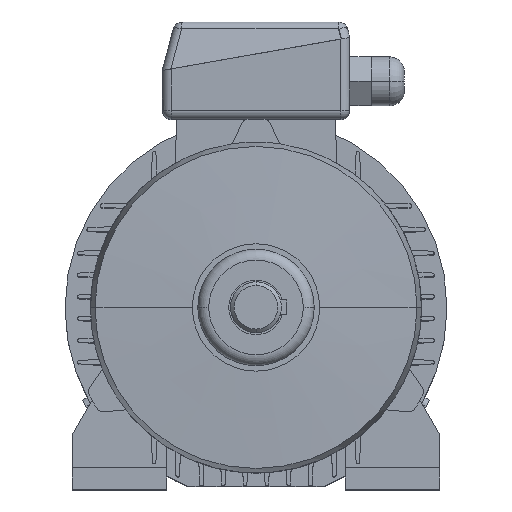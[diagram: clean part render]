
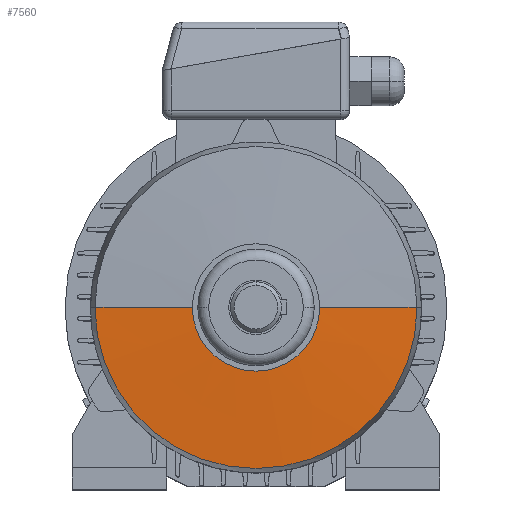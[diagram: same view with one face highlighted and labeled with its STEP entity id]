
A CAD part, top view. The second image highlights one B-rep face of the part: STEP entity #7560.
In plain terms, the highlighted conical face has half-angle 87.326 degrees and reference radius 35 mm.
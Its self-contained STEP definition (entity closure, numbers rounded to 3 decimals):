
#16479 = CARTESIAN_POINT ( 'NONE',  ( -88.531, 0., 26. ) ) ;
#290 = EDGE_CURVE ( 'NONE', #11727, #18044, #21127, .T. ) ;
#17657 = VERTEX_POINT ( 'NONE', #16194 ) ;
#17669 = LINE ( 'NONE', #17670, #17671 ) ;
#17670 = CARTESIAN_POINT ( 'NONE',  ( -35., 0., 28.5 ) ) ;
#17671 = VECTOR ( 'NONE', #17672, 1000. ) ;
#17672 = DIRECTION ( 'NONE',  ( -0.999, 0., -0.047 ) ) ;
#17720 = VERTEX_POINT ( 'NONE', #16276 ) ;
#18044 = VERTEX_POINT ( 'NONE', #16479 ) ;
#19150 = EDGE_CURVE ( 'NONE', #17657, #18044, #17669, .T. ) ;
#19808 = LINE ( 'NONE', #19824, #19825 ) ;
#19824 = CARTESIAN_POINT ( 'NONE',  ( 35., 0., 28.5 ) ) ;
#19825 = VECTOR ( 'NONE', #19826, 1000. ) ;
#19826 = DIRECTION ( 'NONE',  ( 0.999, 0., -0.047 ) ) ;
#3657 = CIRCLE ( 'NONE', #3658, 35. ) ;
#3658 = AXIS2_PLACEMENT_3D ( 'NONE', #3659, #3660, #3661 ) ;
#3659 = CARTESIAN_POINT ( 'NONE',  ( 0., 0., 28.5 ) ) ;
#3660 = DIRECTION ( 'NONE',  ( 0., 0., -1. ) ) ;
#3661 = DIRECTION ( 'NONE',  ( -1., 0., 0. ) ) ;
#4079 = ORIENTED_EDGE ( 'NONE', *, *, #290, .F. ) ;
#21127 = CIRCLE ( 'NONE', #21128, 88.531 ) ;
#21128 = AXIS2_PLACEMENT_3D ( 'NONE', #21129, #21130, #21131 ) ;
#21129 = CARTESIAN_POINT ( 'NONE',  ( 0., 0., 26. ) ) ;
#21130 = DIRECTION ( 'NONE',  ( 0., 0., -1. ) ) ;
#21131 = DIRECTION ( 'NONE',  ( -1., 0., 0. ) ) ;
#4919 = ORIENTED_EDGE ( 'NONE', *, *, #19150, .T. ) ;
#21579 = EDGE_CURVE ( 'NONE', #17720, #11727, #19808, .T. ) ;
#5560 = EDGE_CURVE ( 'NONE', #17720, #17657, #3657, .T. ) ;
#5706 = FACE_OUTER_BOUND ( 'NONE', #7273, .T. ) ;
#5707 = CONICAL_SURFACE ( 'NONE', #5708, 35., 1.524 ) ;
#5708 = AXIS2_PLACEMENT_3D ( 'NONE', #5709, #5710, #5711 ) ;
#5709 = CARTESIAN_POINT ( 'NONE',  ( 0., 0., 28.5 ) ) ;
#5710 = DIRECTION ( 'NONE',  ( 0., 0., -1. ) ) ;
#5711 = DIRECTION ( 'NONE',  ( -1., 0., 0. ) ) ;
#6013 = ORIENTED_EDGE ( 'NONE', *, *, #5560, .T. ) ;
#6642 = ORIENTED_EDGE ( 'NONE', *, *, #21579, .F. ) ;
#7273 = EDGE_LOOP ( 'NONE', ( #6642, #6013, #4919, #4079 ) ) ;
#7560 = ADVANCED_FACE ( 'NONE', ( #5706 ), #5707, .T. ) ;
#10166 = CARTESIAN_POINT ( 'NONE',  ( 88.531, 0., 26. ) ) ;
#11727 = VERTEX_POINT ( 'NONE', #10166 ) ;
#16194 = CARTESIAN_POINT ( 'NONE',  ( -35., 0., 28.5 ) ) ;
#16276 = CARTESIAN_POINT ( 'NONE',  ( 35., 0., 28.5 ) ) ;
